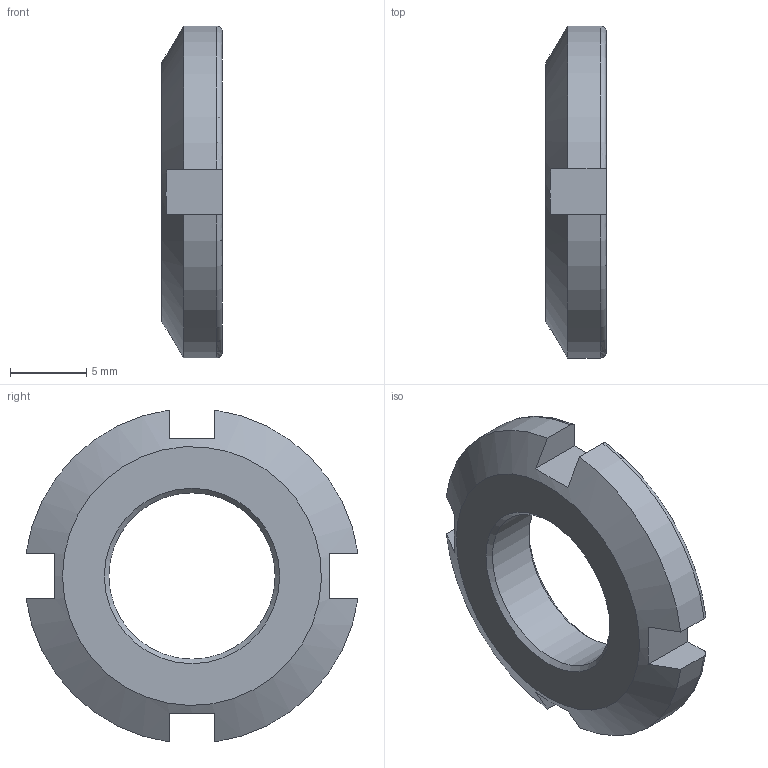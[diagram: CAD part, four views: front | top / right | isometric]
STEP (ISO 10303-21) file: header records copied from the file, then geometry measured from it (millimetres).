
FILE_DESCRIPTION(/* description */ ('Locknuts and locking devices-Dimensions - Locknuts(4 slots)'),/* implementation_level */ '2;1');
FILE_NAME(/* name */ 'D:\lock nut\LOCK NUT ISO 2982-2 - M12 x 1 x 17.stp',/* time_stamp */ '2022-04-01T13:46:36+07:00',/* author */ ('USER'),/* organization */ (''),/* preprocessor_version */ 'ST-DEVELOPER v16.1',/* originating_system */ 'Autodesk Inventor 2016',/* authorisation */ '');
FILE_SCHEMA (('AUTOMOTIVE_DESIGN { 1 0 10303 214 3 1 1 }'));
Length unit declared in the file: millimetre
Products named in the file (1): LOCK NUT ISO 2982-2 - M12 x 1 x 17
Bounding box: 4 x 21.79 x 21.79 mm (x, y, z)
Volume: 952.1 mm3; surface area: 898.3 mm2
Topology: 1 solids, 1 shells, 26 faces, 72 edges, 48 vertices
Faces by surface type: plane 14, cylinder 5, torus 4, cone 3
Full cylindrical faces by diameter (mm): 10.917 x1
Entity records: 858 total; most frequent: CARTESIAN_POINT 233, ORIENTED_EDGE 130, DIRECTION 116, EDGE_CURVE 65, VERTEX_POINT 45, AXIS2_PLACEMENT_3D 44, EDGE_LOOP 32, LINE 28
